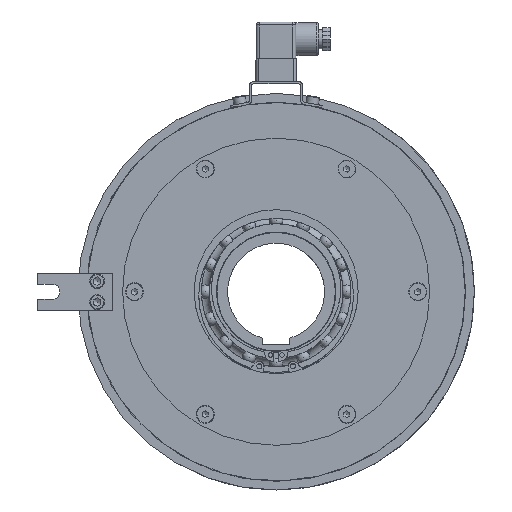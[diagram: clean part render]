
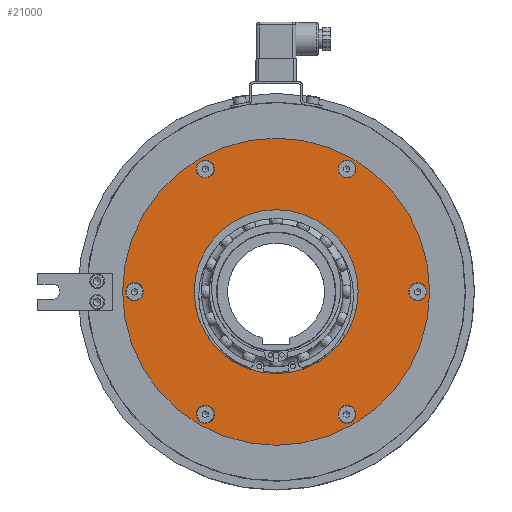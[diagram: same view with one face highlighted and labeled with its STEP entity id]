
A CAD part, left-side view. The second image highlights one B-rep face of the part: STEP entity #21000.
In plain terms, the highlighted planar face has unit normal (-1, 0, 0).
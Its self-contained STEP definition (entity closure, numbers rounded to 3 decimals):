
#1135=FACE_BOUND('',#3817,.T.);
#1136=FACE_BOUND('',#3818,.T.);
#1137=FACE_BOUND('',#3819,.T.);
#1138=FACE_BOUND('',#3820,.T.);
#1139=FACE_BOUND('',#3821,.T.);
#1140=FACE_BOUND('',#3822,.T.);
#1141=FACE_BOUND('',#3823,.T.);
#1671=PLANE('',#23191);
#2566=FACE_OUTER_BOUND('',#3816,.T.);
#3816=EDGE_LOOP('',(#17575,#17576));
#3817=EDGE_LOOP('',(#17577,#17578));
#3818=EDGE_LOOP('',(#17579,#17580));
#3819=EDGE_LOOP('',(#17581,#17582));
#3820=EDGE_LOOP('',(#17583,#17584));
#3821=EDGE_LOOP('',(#17585,#17586));
#3822=EDGE_LOOP('',(#17587,#17588));
#3823=EDGE_LOOP('',(#17589,#17590));
#7551=CIRCLE('',#23174,6.);
#7552=CIRCLE('',#23175,6.);
#7553=CIRCLE('',#23177,6.);
#7554=CIRCLE('',#23178,6.);
#7555=CIRCLE('',#23180,6.);
#7556=CIRCLE('',#23181,6.);
#7557=CIRCLE('',#23183,6.);
#7558=CIRCLE('',#23184,6.);
#7559=CIRCLE('',#23186,6.);
#7560=CIRCLE('',#23187,6.);
#7561=CIRCLE('',#23189,6.);
#7562=CIRCLE('',#23190,6.);
#7563=CIRCLE('',#23192,103.);
#7564=CIRCLE('',#23193,103.);
#7565=CIRCLE('',#23194,55.);
#7566=CIRCLE('',#23195,55.);
#9450=VERTEX_POINT('',#35415);
#9451=VERTEX_POINT('',#35416);
#9452=VERTEX_POINT('',#35421);
#9453=VERTEX_POINT('',#35422);
#9454=VERTEX_POINT('',#35427);
#9455=VERTEX_POINT('',#35428);
#9456=VERTEX_POINT('',#35433);
#9457=VERTEX_POINT('',#35434);
#9458=VERTEX_POINT('',#35439);
#9459=VERTEX_POINT('',#35440);
#9460=VERTEX_POINT('',#35445);
#9461=VERTEX_POINT('',#35446);
#9462=VERTEX_POINT('',#35451);
#9463=VERTEX_POINT('',#35452);
#9464=VERTEX_POINT('',#35455);
#9465=VERTEX_POINT('',#35456);
#12293=EDGE_CURVE('',#9450,#9451,#7551,.T.);
#12294=EDGE_CURVE('',#9451,#9450,#7552,.T.);
#12296=EDGE_CURVE('',#9452,#9453,#7553,.T.);
#12297=EDGE_CURVE('',#9453,#9452,#7554,.T.);
#12299=EDGE_CURVE('',#9454,#9455,#7555,.T.);
#12300=EDGE_CURVE('',#9455,#9454,#7556,.T.);
#12302=EDGE_CURVE('',#9456,#9457,#7557,.T.);
#12303=EDGE_CURVE('',#9457,#9456,#7558,.T.);
#12305=EDGE_CURVE('',#9458,#9459,#7559,.T.);
#12306=EDGE_CURVE('',#9459,#9458,#7560,.T.);
#12308=EDGE_CURVE('',#9460,#9461,#7561,.T.);
#12309=EDGE_CURVE('',#9461,#9460,#7562,.T.);
#12311=EDGE_CURVE('',#9462,#9463,#7563,.T.);
#12312=EDGE_CURVE('',#9463,#9462,#7564,.T.);
#12313=EDGE_CURVE('',#9464,#9465,#7565,.T.);
#12314=EDGE_CURVE('',#9465,#9464,#7566,.T.);
#17575=ORIENTED_EDGE('',*,*,#12311,.F.);
#17576=ORIENTED_EDGE('',*,*,#12312,.F.);
#17577=ORIENTED_EDGE('',*,*,#12293,.T.);
#17578=ORIENTED_EDGE('',*,*,#12294,.T.);
#17579=ORIENTED_EDGE('',*,*,#12296,.T.);
#17580=ORIENTED_EDGE('',*,*,#12297,.T.);
#17581=ORIENTED_EDGE('',*,*,#12299,.T.);
#17582=ORIENTED_EDGE('',*,*,#12300,.T.);
#17583=ORIENTED_EDGE('',*,*,#12302,.T.);
#17584=ORIENTED_EDGE('',*,*,#12303,.T.);
#17585=ORIENTED_EDGE('',*,*,#12305,.T.);
#17586=ORIENTED_EDGE('',*,*,#12306,.T.);
#17587=ORIENTED_EDGE('',*,*,#12308,.T.);
#17588=ORIENTED_EDGE('',*,*,#12309,.T.);
#17589=ORIENTED_EDGE('',*,*,#12313,.T.);
#17590=ORIENTED_EDGE('',*,*,#12314,.T.);
#21000=ADVANCED_FACE('',(#2566,#1135,#1136,#1137,#1138,#1139,#1140,#1141),
#1671,.T.);
#23174=AXIS2_PLACEMENT_3D('',#35417,#28428,#28429);
#23175=AXIS2_PLACEMENT_3D('',#35418,#28430,#28431);
#23177=AXIS2_PLACEMENT_3D('',#35423,#28435,#28436);
#23178=AXIS2_PLACEMENT_3D('',#35424,#28437,#28438);
#23180=AXIS2_PLACEMENT_3D('',#35429,#28442,#28443);
#23181=AXIS2_PLACEMENT_3D('',#35430,#28444,#28445);
#23183=AXIS2_PLACEMENT_3D('',#35435,#28449,#28450);
#23184=AXIS2_PLACEMENT_3D('',#35436,#28451,#28452);
#23186=AXIS2_PLACEMENT_3D('',#35441,#28456,#28457);
#23187=AXIS2_PLACEMENT_3D('',#35442,#28458,#28459);
#23189=AXIS2_PLACEMENT_3D('',#35447,#28463,#28464);
#23190=AXIS2_PLACEMENT_3D('',#35448,#28465,#28466);
#23191=AXIS2_PLACEMENT_3D('',#35450,#28468,#28469);
#23192=AXIS2_PLACEMENT_3D('',#35453,#28470,#28471);
#23193=AXIS2_PLACEMENT_3D('',#35454,#28472,#28473);
#23194=AXIS2_PLACEMENT_3D('',#35457,#28474,#28475);
#23195=AXIS2_PLACEMENT_3D('',#35458,#28476,#28477);
#28428=DIRECTION('center_axis',(1.,0.,0.));
#28429=DIRECTION('ref_axis',(0.,0.,
1.));
#28430=DIRECTION('center_axis',(1.,0.,0.));
#28431=DIRECTION('ref_axis',(0.,0.,
1.));
#28435=DIRECTION('center_axis',(1.,0.,0.));
#28436=DIRECTION('ref_axis',(0.,0.,
1.));
#28437=DIRECTION('center_axis',(1.,0.,0.));
#28438=DIRECTION('ref_axis',(0.,0.,
1.));
#28442=DIRECTION('center_axis',(1.,0.,0.));
#28443=DIRECTION('ref_axis',(0.,0.,
1.));
#28444=DIRECTION('center_axis',(1.,0.,0.));
#28445=DIRECTION('ref_axis',(0.,0.,
1.));
#28449=DIRECTION('center_axis',(1.,0.,0.));
#28450=DIRECTION('ref_axis',(0.,0.,
1.));
#28451=DIRECTION('center_axis',(1.,0.,0.));
#28452=DIRECTION('ref_axis',(0.,0.,
1.));
#28456=DIRECTION('center_axis',(1.,0.,0.));
#28457=DIRECTION('ref_axis',(0.,0.,
1.));
#28458=DIRECTION('center_axis',(1.,0.,0.));
#28459=DIRECTION('ref_axis',(0.,0.,
1.));
#28463=DIRECTION('center_axis',(1.,0.,0.));
#28464=DIRECTION('ref_axis',(0.,0.,
1.));
#28465=DIRECTION('center_axis',(1.,0.,0.));
#28466=DIRECTION('ref_axis',(0.,0.,
1.));
#28468=DIRECTION('center_axis',(-1.,0.,0.));
#28469=DIRECTION('ref_axis',(0.,0.,
1.));
#28470=DIRECTION('center_axis',(1.,0.,0.));
#28471=DIRECTION('ref_axis',(0.,1.,0.));
#28472=DIRECTION('center_axis',(1.,0.,0.));
#28473=DIRECTION('ref_axis',(0.,1.,0.));
#28474=DIRECTION('center_axis',(1.,0.,0.));
#28475=DIRECTION('ref_axis',(0.,1.,0.));
#28476=DIRECTION('center_axis',(1.,0.,0.));
#28477=DIRECTION('ref_axis',(0.,1.,0.));
#35415=CARTESIAN_POINT('',(-74.,47.5,88.272));
#35416=CARTESIAN_POINT('',(-74.,47.5,76.272));
#35417=CARTESIAN_POINT('Origin',(-74.,47.5,82.272));
#35418=CARTESIAN_POINT('Origin',(-74.,47.5,82.272));
#35421=CARTESIAN_POINT('',(-74.,-47.5,88.272));
#35422=CARTESIAN_POINT('',(-74.,-47.5,76.272));
#35423=CARTESIAN_POINT('Origin',(-74.,-47.5,82.272));
#35424=CARTESIAN_POINT('Origin',(-74.,-47.5,82.272));
#35427=CARTESIAN_POINT('',(-74.,-95.,6.));
#35428=CARTESIAN_POINT('',(-74.,-95.,-6.));
#35429=CARTESIAN_POINT('Origin',(-74.,-95.,0.));
#35430=CARTESIAN_POINT('Origin',(-74.,-95.,0.));
#35433=CARTESIAN_POINT('',(-74.,-47.5,-76.272));
#35434=CARTESIAN_POINT('',(-74.,-47.5,-88.272));
#35435=CARTESIAN_POINT('Origin',(-74.,-47.5,-82.272));
#35436=CARTESIAN_POINT('Origin',(-74.,-47.5,-82.272));
#35439=CARTESIAN_POINT('',(-74.,47.5,-76.272));
#35440=CARTESIAN_POINT('',(-74.,47.5,-88.272));
#35441=CARTESIAN_POINT('Origin',(-74.,47.5,-82.272));
#35442=CARTESIAN_POINT('Origin',(-74.,47.5,-82.272));
#35445=CARTESIAN_POINT('',(-74.,95.,6.));
#35446=CARTESIAN_POINT('',(-74.,95.,-6.));
#35447=CARTESIAN_POINT('Origin',(-74.,95.,0.));
#35448=CARTESIAN_POINT('Origin',(-74.,95.,0.));
#35450=CARTESIAN_POINT('Origin',(-74.,79.,0.));
#35451=CARTESIAN_POINT('',(-74.,103.,0.));
#35452=CARTESIAN_POINT('',(-74.,-103.,0.));
#35453=CARTESIAN_POINT('Origin',(-74.,0.,0.));
#35454=CARTESIAN_POINT('Origin',(-74.,0.,0.));
#35455=CARTESIAN_POINT('',(-74.,55.,0.));
#35456=CARTESIAN_POINT('',(-74.,-55.,0.));
#35457=CARTESIAN_POINT('Origin',(-74.,0.,0.));
#35458=CARTESIAN_POINT('Origin',(-74.,0.,0.));
